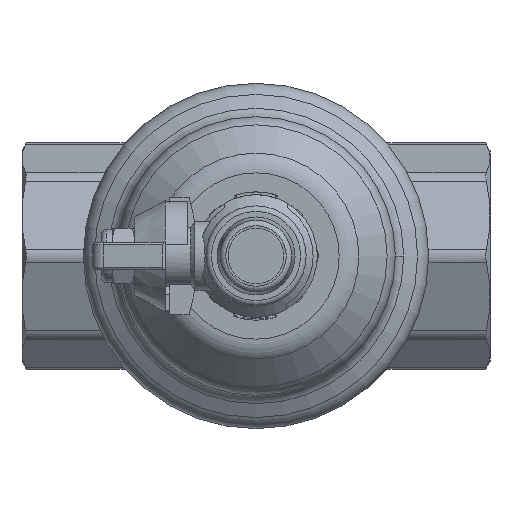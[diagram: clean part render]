
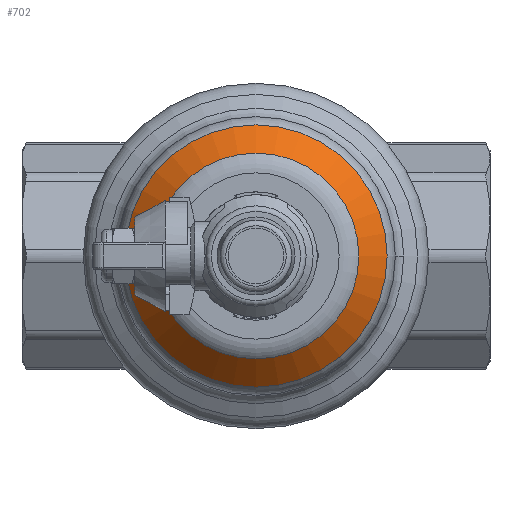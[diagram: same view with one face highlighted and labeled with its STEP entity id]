
A CAD part, front view. The second image highlights one B-rep face of the part: STEP entity #702.
In plain terms, the highlighted conical face has half-angle 45 degrees and reference radius 21 mm.
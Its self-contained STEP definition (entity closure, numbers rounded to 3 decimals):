
#702=ADVANCED_FACE('',(#5378,#5380),#5382,.T.);
#5378=FACE_OUTER_BOUND('',#5379,.T.);
#5379=EDGE_LOOP('',(#12631));
#5380=FACE_OUTER_BOUND('',#5381,.T.);
#5381=EDGE_LOOP('',(#12632));
#5382=CONICAL_SURFACE('',#5383,21.,0.785);
#5383=AXIS2_PLACEMENT_3D('',#5384,#5385,#5386);
#5384=CARTESIAN_POINT('',(0.,-123.5,0.));
#5385=DIRECTION('',(0.,1.,0.));
#5386=DIRECTION('',(1.,0.,0.));
#12631=ORIENTED_EDGE('',*,*,#16010,.F.);
#12632=ORIENTED_EDGE('',*,*,#16007,.F.);
#16007=EDGE_CURVE('',#19667,#19667,#19668,.F.);
#16010=EDGE_CURVE('',#19673,#19673,#19674,.T.);
#19667=VERTEX_POINT('',#35708);
#19668=CIRCLE('',#35709,18.464);
#19673=VERTEX_POINT('',#35723);
#19674=CIRCLE('',#35724,23.536);
#35708=CARTESIAN_POINT('',(18.464,-126.036,0.));
#35709=AXIS2_PLACEMENT_3D('',#35710,#35711,#35712);
#35710=CARTESIAN_POINT('',(0.,-126.036,0.));
#35711=DIRECTION('',(0.,1.,0.));
#35712=DIRECTION('',(1.,0.,0.));
#35723=CARTESIAN_POINT('',(23.536,-120.964,0.));
#35724=AXIS2_PLACEMENT_3D('',#35725,#35726,#35727);
#35725=CARTESIAN_POINT('',(0.,-120.964,0.));
#35726=DIRECTION('',(0.,1.,0.));
#35727=DIRECTION('',(1.,0.,0.));
